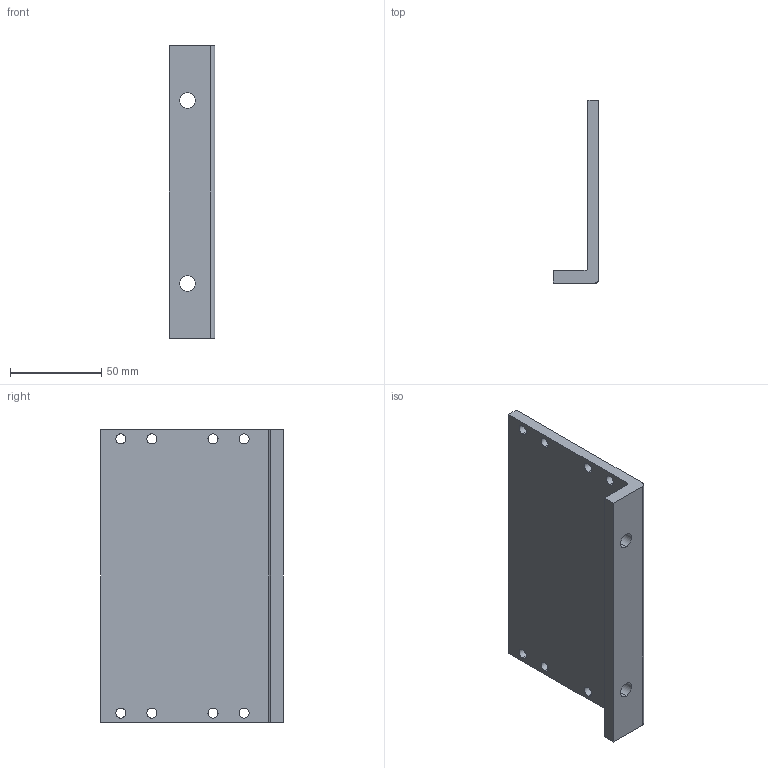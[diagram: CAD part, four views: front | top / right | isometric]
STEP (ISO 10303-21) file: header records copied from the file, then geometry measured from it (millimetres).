
FILE_DESCRIPTION (( 'STEP AP214' ), '1' );
FILE_NAME ('BWMBS150.STEP', '2022-03-16T09:31:43', ( '' ), ( '' ), 'SwSTEP 2.0', 'SolidWorks 2020', '' );
FILE_SCHEMA (( 'AUTOMOTIVE_DESIGN' ));
Length unit declared in the file: millimetre
Products named in the file (1): BWMBS150
Bounding box: 25 x 100 x 160 mm (x, y, z)
Volume: 115164.9 mm3; surface area: 41819.5 mm2
Topology: 1 solids, 1 shells, 30 faces, 84 edges, 56 vertices
Faces by surface type: cylinder 22, plane 8
Entity records: 1066 total; most frequent: DIRECTION 190, CARTESIAN_POINT 171, ORIENTED_EDGE 168, EDGE_CURVE 84, AXIS2_PLACEMENT_3D 75, VERTEX_POINT 56, EDGE_LOOP 50, CIRCLE 44
